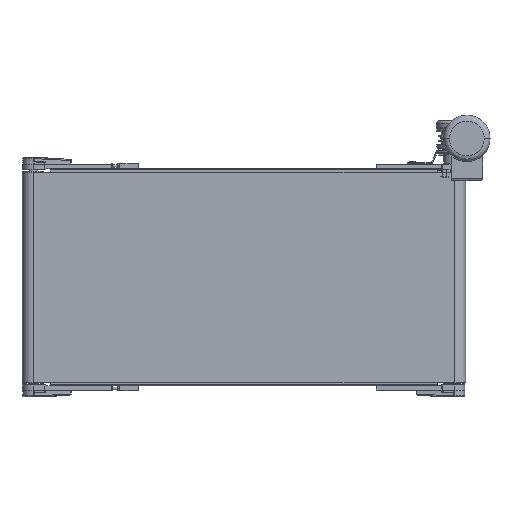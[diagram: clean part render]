
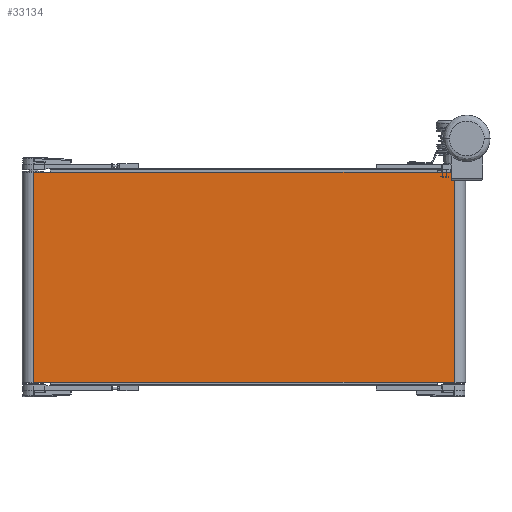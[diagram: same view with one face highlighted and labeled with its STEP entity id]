
A CAD part, front view. The second image highlights one B-rep face of the part: STEP entity #33134.
In plain terms, the highlighted planar face has unit normal (0, -1, 0).
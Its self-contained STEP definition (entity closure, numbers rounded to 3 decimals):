
#3900 = VERTEX_POINT ( 'NONE', #90741 ) ;
#7777 = VECTOR ( 'NONE', #79764, 1000. ) ;
#7845 = DIRECTION ( 'NONE',  ( 0., 1., 0. ) ) ;
#8167 = LINE ( 'NONE', #88929, #82771 ) ;
#11371 = ORIENTED_EDGE ( 'NONE', *, *, #91011, .F. ) ;
#16173 = CARTESIAN_POINT ( 'NONE',  ( -500., -27., 250. ) ) ;
#16226 = CARTESIAN_POINT ( 'NONE',  ( -500., -27., 250. ) ) ;
#19053 = VERTEX_POINT ( 'NONE', #16226 ) ;
#20170 = DIRECTION ( 'NONE',  ( 0., 0., -1. ) ) ;
#25075 = PLANE ( 'NONE',  #72457 ) ;
#26327 = CARTESIAN_POINT ( 'NONE',  ( -500., -27., 250. ) ) ;
#29684 = CARTESIAN_POINT ( 'NONE',  ( -500., -27., 250. ) ) ;
#33134 = ADVANCED_FACE ( 'NONE', ( #106416 ), #25075, .F. ) ;
#35889 = EDGE_CURVE ( 'NONE', #19053, #63733, #101526, .T. ) ;
#43195 = ORIENTED_EDGE ( 'NONE', *, *, #35889, .T. ) ;
#44084 = DIRECTION ( 'NONE',  ( 0., 0., 1. ) ) ;
#44122 = CARTESIAN_POINT ( 'NONE',  ( 500., -27., 250. ) ) ;
#47535 = VECTOR ( 'NONE', #116220, 1000. ) ;
#48438 = EDGE_LOOP ( 'NONE', ( #72224, #66794, #11371, #43195 ) ) ;
#50471 = CARTESIAN_POINT ( 'NONE',  ( -500., -27., -250. ) ) ;
#63733 = VERTEX_POINT ( 'NONE', #50471 ) ;
#66794 = ORIENTED_EDGE ( 'NONE', *, *, #100454, .F. ) ;
#71106 = LINE ( 'NONE', #72275, #47535 ) ;
#72224 = ORIENTED_EDGE ( 'NONE', *, *, #109009, .T. ) ;
#72275 = CARTESIAN_POINT ( 'NONE',  ( 500., -27., 250. ) ) ;
#72457 = AXIS2_PLACEMENT_3D ( 'NONE', #16173, #7845, #44084 ) ;
#79764 = DIRECTION ( 'NONE',  ( 1., 0., 0. ) ) ;
#82771 = VECTOR ( 'NONE', #88341, 1000. ) ;
#87779 = VECTOR ( 'NONE', #20170, 1000. ) ;
#88085 = LINE ( 'NONE', #26327, #7777 ) ;
#88341 = DIRECTION ( 'NONE',  ( 1., 0., 0. ) ) ;
#88929 = CARTESIAN_POINT ( 'NONE',  ( -500., -27., -250. ) ) ;
#90741 = CARTESIAN_POINT ( 'NONE',  ( 500., -27., -250. ) ) ;
#91011 = EDGE_CURVE ( 'NONE', #19053, #95821, #88085, .T. ) ;
#95821 = VERTEX_POINT ( 'NONE', #44122 ) ;
#100454 = EDGE_CURVE ( 'NONE', #95821, #3900, #71106, .T. ) ;
#101526 = LINE ( 'NONE', #29684, #87779 ) ;
#106416 = FACE_OUTER_BOUND ( 'NONE', #48438, .T. ) ;
#109009 = EDGE_CURVE ( 'NONE', #63733, #3900, #8167, .T. ) ;
#116220 = DIRECTION ( 'NONE',  ( 0., 0., -1. ) ) ;
